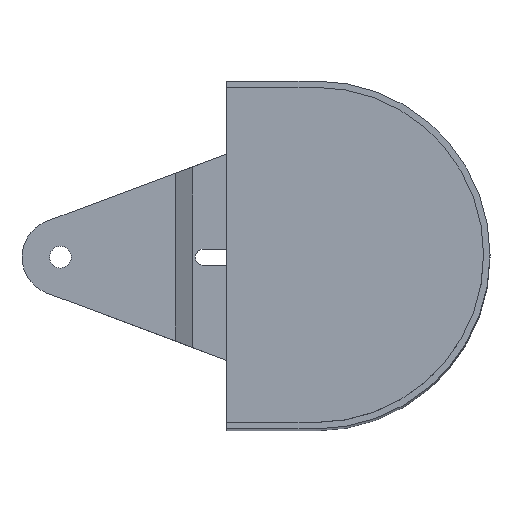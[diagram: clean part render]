
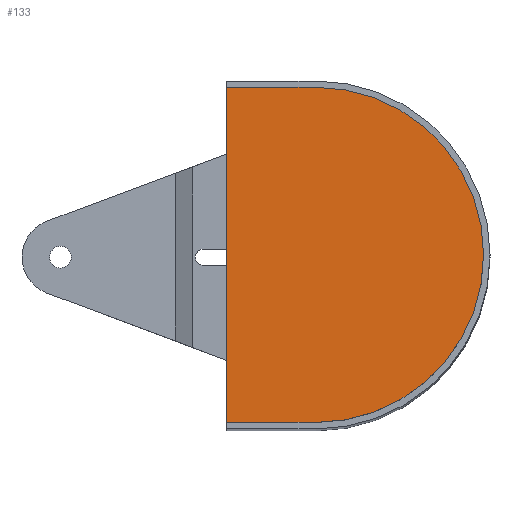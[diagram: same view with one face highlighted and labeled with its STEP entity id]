
A CAD part, top view. The second image highlights one B-rep face of the part: STEP entity #133.
In plain terms, the highlighted planar face has unit normal (0, 0, 1).
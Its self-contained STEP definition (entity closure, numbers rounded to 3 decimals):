
#105 = VECTOR ( 'NONE', #282, 1000. ) ;
#118 = EDGE_LOOP ( 'NONE', ( #1231, #1658, #1513, #1763 ) ) ;
#130 = CIRCLE ( 'NONE', #2121, 65.5 ) ;
#133 = ADVANCED_FACE ( 'NONE', ( #1325 ), #591, .T. ) ;
#185 = LINE ( 'NONE', #2321, #2194 ) ;
#255 = DIRECTION ( 'NONE',  ( 1., 0., 0. ) ) ;
#265 = EDGE_CURVE ( 'NONE', #2280, #1301, #611, .T. ) ;
#282 = DIRECTION ( 'NONE',  ( 0., -1., 0. ) ) ;
#324 = CARTESIAN_POINT ( 'NONE',  ( -68., 65.5, 249.5 ) ) ;
#372 = EDGE_CURVE ( 'NONE', #1301, #514, #1239, .T. ) ;
#475 = CARTESIAN_POINT ( 'NONE',  ( -103., -65.5, 249.5 ) ) ;
#514 = VERTEX_POINT ( 'NONE', #1618 ) ;
#515 = DIRECTION ( 'NONE',  ( 1., 0., 0. ) ) ;
#591 = PLANE ( 'NONE',  #1017 ) ;
#611 = LINE ( 'NONE', #1366, #105 ) ;
#616 = CARTESIAN_POINT ( 'NONE',  ( -103., -65.5, 249.5 ) ) ;
#737 = DIRECTION ( 'NONE',  ( 1., 0., 0. ) ) ;
#890 = EDGE_CURVE ( 'NONE', #917, #2280, #185, .T. ) ;
#917 = VERTEX_POINT ( 'NONE', #324 ) ;
#1017 = AXIS2_PLACEMENT_3D ( 'NONE', #1868, #1502, #255 ) ;
#1231 = ORIENTED_EDGE ( 'NONE', *, *, #890, .T. ) ;
#1239 = LINE ( 'NONE', #475, #2343 ) ;
#1301 = VERTEX_POINT ( 'NONE', #616 ) ;
#1325 = FACE_OUTER_BOUND ( 'NONE', #118, .T. ) ;
#1366 = CARTESIAN_POINT ( 'NONE',  ( -103., 65.5, 249.5 ) ) ;
#1502 = DIRECTION ( 'NONE',  ( 0., 0., 1. ) ) ;
#1513 = ORIENTED_EDGE ( 'NONE', *, *, #372, .T. ) ;
#1595 = EDGE_CURVE ( 'NONE', #514, #917, #130, .T. ) ;
#1618 = CARTESIAN_POINT ( 'NONE',  ( -68., -65.5, 249.5 ) ) ;
#1645 = CARTESIAN_POINT ( 'NONE',  ( -68., 0., 249.5 ) ) ;
#1658 = ORIENTED_EDGE ( 'NONE', *, *, #265, .T. ) ;
#1763 = ORIENTED_EDGE ( 'NONE', *, *, #1595, .T. ) ;
#1868 = CARTESIAN_POINT ( 'NONE',  ( -68., 0., 249.5 ) ) ;
#1920 = DIRECTION ( 'NONE',  ( -1., 0., 0. ) ) ;
#2012 = DIRECTION ( 'NONE',  ( 0., 0., 1. ) ) ;
#2084 = CARTESIAN_POINT ( 'NONE',  ( -103., 65.5, 249.5 ) ) ;
#2121 = AXIS2_PLACEMENT_3D ( 'NONE', #1645, #2012, #737 ) ;
#2194 = VECTOR ( 'NONE', #1920, 1000. ) ;
#2280 = VERTEX_POINT ( 'NONE', #2084 ) ;
#2321 = CARTESIAN_POINT ( 'NONE',  ( -68., 65.5, 249.5 ) ) ;
#2343 = VECTOR ( 'NONE', #515, 1000. ) ;
